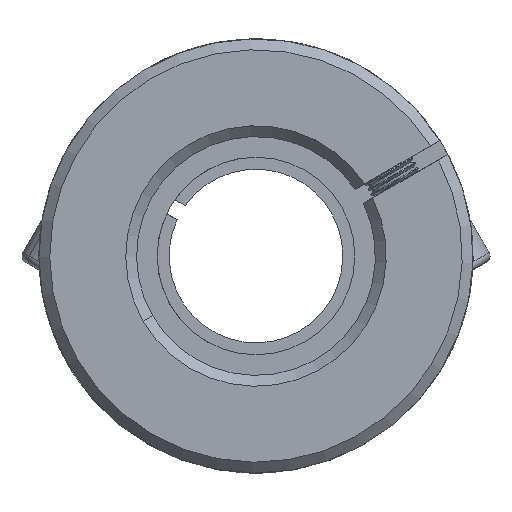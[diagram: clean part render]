
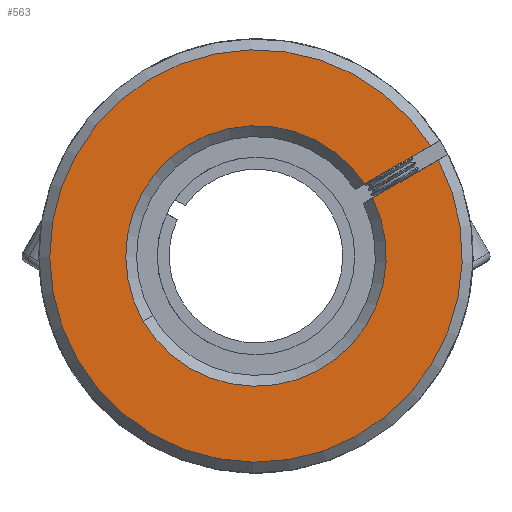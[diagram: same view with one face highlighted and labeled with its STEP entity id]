
A CAD part, front view. The second image highlights one B-rep face of the part: STEP entity #563.
In plain terms, the highlighted planar face has unit normal (0, -1, 0).
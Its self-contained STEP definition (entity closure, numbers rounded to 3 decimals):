
#30 = VERTEX_POINT ( 'NONE', #11682 ) ;
#90 = VERTEX_POINT ( 'NONE', #8728 ) ;
#563 = ADVANCED_FACE ( 'NONE', ( #9580 ), #12248, .F. ) ;
#1087 = ORIENTED_EDGE ( 'NONE', *, *, #9686, .F. ) ;
#1224 = EDGE_CURVE ( 'NONE', #90, #30, #9367, .T. ) ;
#1276 = CARTESIAN_POINT ( 'NONE',  ( -1.447, -31.239, 40. ) ) ;
#1919 = EDGE_LOOP ( 'NONE', ( #12283, #7945, #2534, #1087, #4605 ) ) ;
#1935 = DIRECTION ( 'NONE',  ( 0.866, 0., 0.5 ) ) ;
#2455 = DIRECTION ( 'NONE',  ( 0., -1., 0. ) ) ;
#2534 = ORIENTED_EDGE ( 'NONE', *, *, #1224, .T. ) ;
#2707 = DIRECTION ( 'NONE',  ( 0., 1., 0. ) ) ;
#2905 = AXIS2_PLACEMENT_3D ( 'NONE', #6052, #11402, #10340 ) ;
#2925 = DIRECTION ( 'NONE',  ( -0.866, 0., -0.5 ) ) ;
#2961 = CARTESIAN_POINT ( 'NONE',  ( 8.431, -31.239, 44.841 ) ) ;
#3108 = EDGE_CURVE ( 'NONE', #5710, #90, #10664, .T. ) ;
#3830 = VECTOR ( 'NONE', #1935, 1000. ) ;
#3949 = CARTESIAN_POINT ( 'NONE',  ( 9.298, -31.239, 45.342 ) ) ;
#4311 = EDGE_CURVE ( 'NONE', #7382, #4400, #10794, .T. ) ;
#4400 = VERTEX_POINT ( 'NONE', #6982 ) ;
#4605 = ORIENTED_EDGE ( 'NONE', *, *, #4311, .T. ) ;
#5038 = CARTESIAN_POINT ( 'NONE',  ( 7.68, -31.239, 46.14 ) ) ;
#5710 = VERTEX_POINT ( 'NONE', #3949 ) ;
#5790 = EDGE_CURVE ( 'NONE', #5710, #4400, #12754, .T. ) ;
#6052 = CARTESIAN_POINT ( 'NONE',  ( -1.447, -31.239, 40. ) ) ;
#6573 = DIRECTION ( 'NONE',  ( 0., 1., 0. ) ) ;
#6982 = CARTESIAN_POINT ( 'NONE',  ( 15.367, -31.239, 48.848 ) ) ;
#7193 = CARTESIAN_POINT ( 'NONE',  ( 14.616, -31.239, 50.147 ) ) ;
#7382 = VERTEX_POINT ( 'NONE', #7193 ) ;
#7582 = AXIS2_PLACEMENT_3D ( 'NONE', #8835, #2455, #10050 ) ;
#7945 = ORIENTED_EDGE ( 'NONE', *, *, #3108, .T. ) ;
#8041 = CARTESIAN_POINT ( 'NONE',  ( 52.98, -31.239, 45.743 ) ) ;
#8446 = VECTOR ( 'NONE', #2925, 1000. ) ;
#8669 = DIRECTION ( 'NONE',  ( 0.5, 0., -0.866 ) ) ;
#8728 = CARTESIAN_POINT ( 'NONE',  ( -11.837, -31.239, 33.997 ) ) ;
#8835 = CARTESIAN_POINT ( 'NONE',  ( -1.447, -31.239, 40. ) ) ;
#9119 = DIRECTION ( 'NONE',  ( 0.5, 0., -0.866 ) ) ;
#9367 = CIRCLE ( 'NONE', #2905, 12. ) ;
#9580 = FACE_OUTER_BOUND ( 'NONE', #1919, .T. ) ;
#9686 = EDGE_CURVE ( 'NONE', #7382, #30, #9964, .T. ) ;
#9964 = LINE ( 'NONE', #5038, #8446 ) ;
#10050 = DIRECTION ( 'NONE',  ( 0.5, 0., -0.866 ) ) ;
#10101 = AXIS2_PLACEMENT_3D ( 'NONE', #1276, #6573, #8669 ) ;
#10340 = DIRECTION ( 'NONE',  ( 0.5, 0., -0.866 ) ) ;
#10643 = AXIS2_PLACEMENT_3D ( 'NONE', #8041, #2707, #9119 ) ;
#10664 = CIRCLE ( 'NONE', #10101, 12. ) ;
#10794 = CIRCLE ( 'NONE', #7582, 19. ) ;
#11402 = DIRECTION ( 'NONE',  ( 0., 1., 0. ) ) ;
#11682 = CARTESIAN_POINT ( 'NONE',  ( 8.548, -31.239, 46.641 ) ) ;
#12248 = PLANE ( 'NONE',  #10643 ) ;
#12283 = ORIENTED_EDGE ( 'NONE', *, *, #5790, .F. ) ;
#12754 = LINE ( 'NONE', #2961, #3830 ) ;
